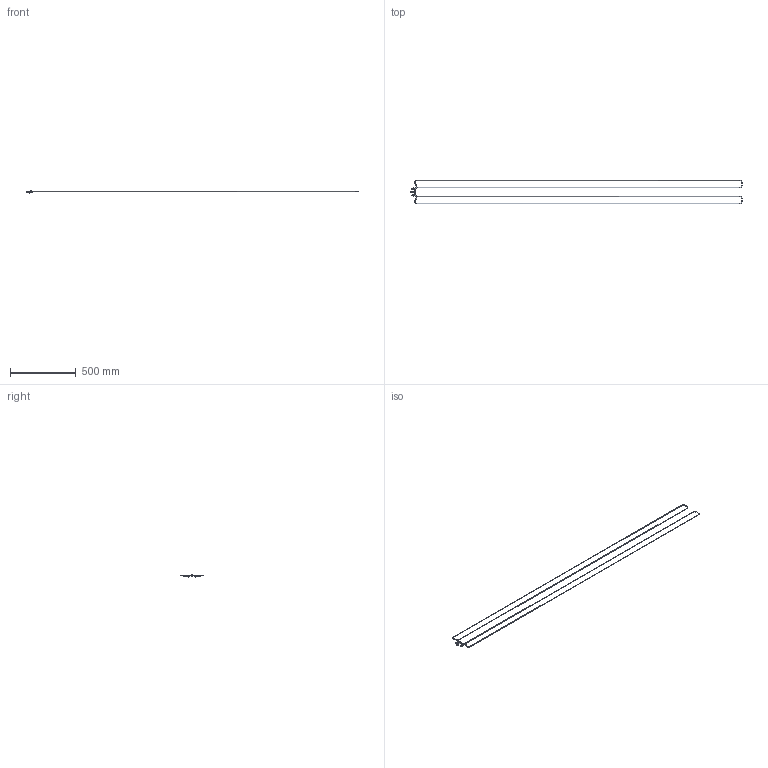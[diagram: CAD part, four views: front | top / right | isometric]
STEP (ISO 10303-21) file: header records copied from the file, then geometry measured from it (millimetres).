
FILE_DESCRIPTION(/* description */ (''),/* implementation_level */ '2;1');
FILE_NAME(/* name */ 'CMS.BTL.00000075.stp',/* time_stamp */ '2023-10-24T15:09:12+02:00',/* author */ (''),/* organization */ (''),/* preprocessor_version */ 'ST-DEVELOPER v19.4',/* originating_system */ 'SIEMENS PLM Software NX2306.5001',/* authorisation */ '');
FILE_SCHEMA (('AP203_CONFIGURATION_CONTROLLED_3D_DESIGN_OF_MECHANICAL_PARTS_AND_ASSEMBLIES_MIM_LF { 1 0 10303 403 2 1 2}'));
Length unit declared in the file: millimetre
Products named in the file (1): CMS.BTL.00000075_objects
Bounding box: 2525.39 x 180.5 x 16.89 mm (x, y, z)
Volume: 28784.9 mm3; surface area: 212797.2 mm2
Topology: 11 solids, 11 shells, 193 faces, 422 edges, 271 vertices
Faces by surface type: plane 66, cylinder 61, cone 41, torus 25
Full cylindrical faces by diameter (mm): 2.5 x1, 2.7 x2, 3 x16, 3.5 x18, 3.55 x4, 4 x6, 5 x1, 5.08 x3, 5.334 x3, 6.35 x3, 7.938 x3
Entity records: 4809 total; most frequent: CARTESIAN_POINT 968, DIRECTION 809, ORIENTED_EDGE 620, AXIS2_PLACEMENT_3D 381, EDGE_LOOP 311, EDGE_CURVE 310, FACE_BOUND 237, VERTEX_POINT 235
